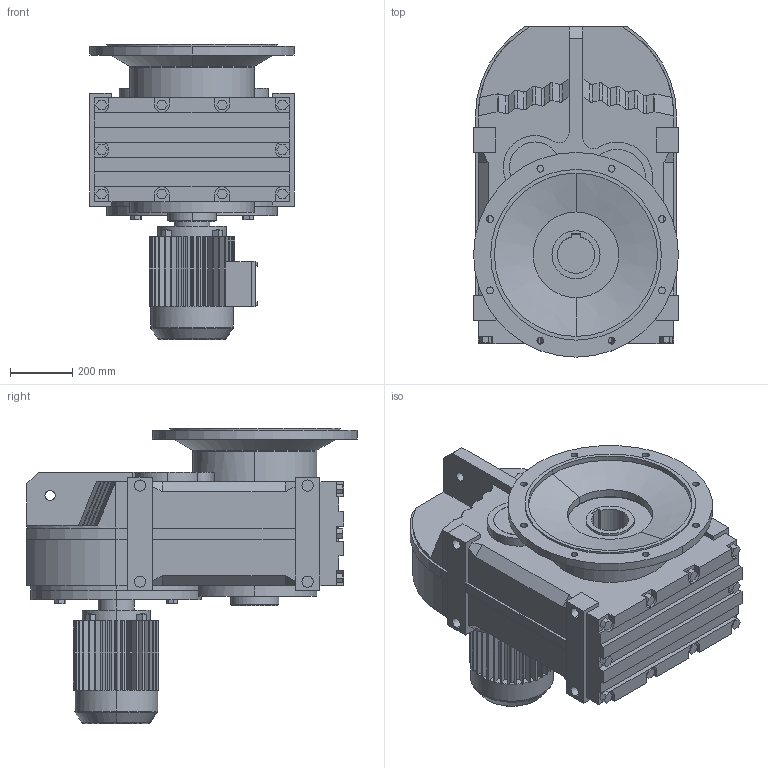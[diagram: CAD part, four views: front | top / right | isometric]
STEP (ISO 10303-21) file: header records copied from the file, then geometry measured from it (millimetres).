
FILE_DESCRIPTION(('Open CASCADE Model'),'2;1');
FILE_NAME('Open CASCADE Shape Model','2021-07-20T10:13:29',('Author'),( 'Open CASCADE'),'Open CASCADE STEP processor 6.3','Open CASCADE 6.3' ,'Unknown');
FILE_SCHEMA(('AUTOMOTIVE_DESIGN_CC2 { 1 2 10303 214 -1 1 5 4 }'));
Length unit declared in the file: millimetre
Products named in the file (5): 1_FAF157-Y132M; FA27‵157_157.step; 萇儂_550_Y132M.step; す瑩諾陑粣F_157.step; 楊擘F_157.step
Assembly tree (4 placements, depth 2):
  1_FAF157-Y132M
    FA27‵157_157.step
    萇儂_550_Y132M.step
    す瑩諾陑粣F_157.step
    楊擘F_157.step
Bounding box: 660 x 1065 x 951 mm (x, y, z)
Volume: 243757627.1 mm3; surface area: 5455424.5 mm2
Topology: 4 solids, 4 shells, 816 faces, 2143 edges, 1396 vertices
Faces by surface type: plane 567, cylinder 223, bspline 16, cone 6, torus 4
Entity records: 54977 total; most frequent: CARTESIAN_POINT 13975, DIRECTION 7139, ORIENTED_EDGE 4286, PCURVE 4286, DEFINITIONAL_REPRESENTATION 4286, LINE 3911, VECTOR 3911, EDGE_CURVE 2143
